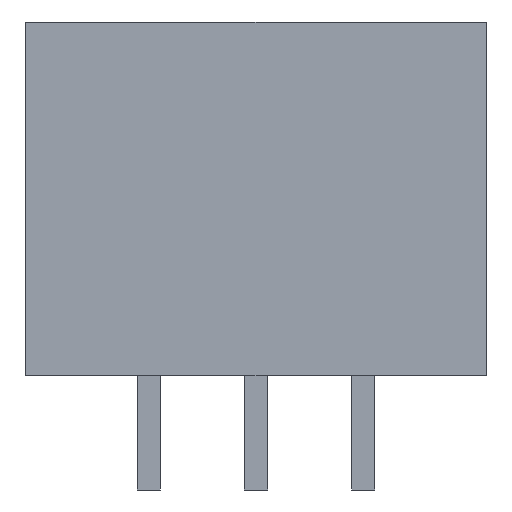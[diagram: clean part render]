
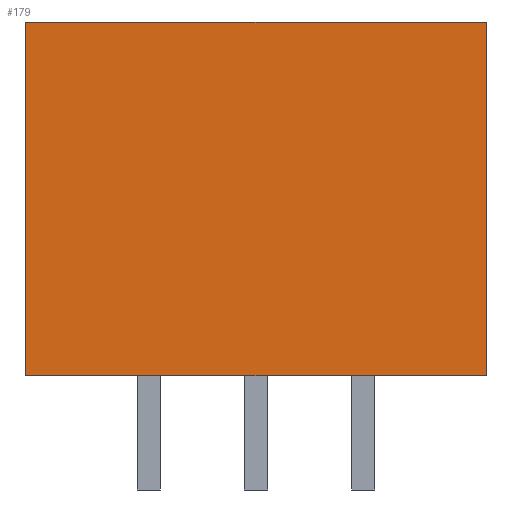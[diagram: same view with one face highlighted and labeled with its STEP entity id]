
A CAD part, front view. The second image highlights one B-rep face of the part: STEP entity #179.
In plain terms, the highlighted planar face has unit normal (0, -1, 0).
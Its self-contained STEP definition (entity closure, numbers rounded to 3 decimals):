
#63 = EDGE_CURVE('',#64,#66,#68,.T.);
#64 = VERTEX_POINT('',#65);
#65 = CARTESIAN_POINT('',(-3.45,-5.,0.));
#66 = VERTEX_POINT('',#67);
#67 = CARTESIAN_POINT('',(-3.45,-5.,9.9));
#68 = SURFACE_CURVE('',#69,(#73,#85),.PCURVE_S1.);
#69 = LINE('',#70,#71);
#70 = CARTESIAN_POINT('',(-3.45,-5.,0.));
#71 = VECTOR('',#72,1.);
#72 = DIRECTION('',(0.,0.,1.));
#73 = PCURVE('',#74,#79);
#74 = PLANE('',#75);
#75 = AXIS2_PLACEMENT_3D('',#76,#77,#78);
#76 = CARTESIAN_POINT('',(-3.45,-5.,0.));
#77 = DIRECTION('',(1.,0.,0.));
#78 = DIRECTION('',(0.,0.,1.));
#79 = DEFINITIONAL_REPRESENTATION('',(#80),#84);
#80 = LINE('',#81,#82);
#81 = CARTESIAN_POINT('',(0.,0.));
#82 = VECTOR('',#83,1.);
#83 = DIRECTION('',(1.,0.));
#84 = ( GEOMETRIC_REPRESENTATION_CONTEXT(2) 
PARAMETRIC_REPRESENTATION_CONTEXT() REPRESENTATION_CONTEXT('2D SPACE',''
  ) );
#85 = PCURVE('',#86,#91);
#86 = PLANE('',#87);
#87 = AXIS2_PLACEMENT_3D('',#88,#89,#90);
#88 = CARTESIAN_POINT('',(-3.45,-5.,0.));
#89 = DIRECTION('',(0.,1.,0.));
#90 = DIRECTION('',(0.,0.,1.));
#91 = DEFINITIONAL_REPRESENTATION('',(#92),#96);
#92 = LINE('',#93,#94);
#93 = CARTESIAN_POINT('',(0.,0.));
#94 = VECTOR('',#95,1.);
#95 = DIRECTION('',(1.,0.));
#96 = ( GEOMETRIC_REPRESENTATION_CONTEXT(2) 
PARAMETRIC_REPRESENTATION_CONTEXT() REPRESENTATION_CONTEXT('2D SPACE',''
  ) );
#114 = PLANE('',#115);
#115 = AXIS2_PLACEMENT_3D('',#116,#117,#118);
#116 = CARTESIAN_POINT('',(-3.45,-5.,0.));
#117 = DIRECTION('',(0.,0.,1.));
#118 = DIRECTION('',(1.,0.,0.));
#168 = PLANE('',#169);
#169 = AXIS2_PLACEMENT_3D('',#170,#171,#172);
#170 = CARTESIAN_POINT('',(-3.45,-5.,9.9));
#171 = DIRECTION('',(0.,0.,1.));
#172 = DIRECTION('',(1.,0.,0.));
#179 = ADVANCED_FACE('',(#180),#86,.F.);
#180 = FACE_BOUND('',#181,.F.);
#181 = EDGE_LOOP('',(#182,#205,#206,#229));
#182 = ORIENTED_EDGE('',*,*,#183,.F.);
#183 = EDGE_CURVE('',#64,#184,#186,.T.);
#184 = VERTEX_POINT('',#185);
#185 = CARTESIAN_POINT('',(9.45,-5.,0.));
#186 = SURFACE_CURVE('',#187,(#191,#198),.PCURVE_S1.);
#187 = LINE('',#188,#189);
#188 = CARTESIAN_POINT('',(-3.45,-5.,0.));
#189 = VECTOR('',#190,1.);
#190 = DIRECTION('',(1.,0.,0.));
#191 = PCURVE('',#86,#192);
#192 = DEFINITIONAL_REPRESENTATION('',(#193),#197);
#193 = LINE('',#194,#195);
#194 = CARTESIAN_POINT('',(0.,0.));
#195 = VECTOR('',#196,1.);
#196 = DIRECTION('',(0.,1.));
#197 = ( GEOMETRIC_REPRESENTATION_CONTEXT(2) 
PARAMETRIC_REPRESENTATION_CONTEXT() REPRESENTATION_CONTEXT('2D SPACE',''
  ) );
#198 = PCURVE('',#114,#199);
#199 = DEFINITIONAL_REPRESENTATION('',(#200),#204);
#200 = LINE('',#201,#202);
#201 = CARTESIAN_POINT('',(0.,0.));
#202 = VECTOR('',#203,1.);
#203 = DIRECTION('',(1.,0.));
#204 = ( GEOMETRIC_REPRESENTATION_CONTEXT(2) 
PARAMETRIC_REPRESENTATION_CONTEXT() REPRESENTATION_CONTEXT('2D SPACE',''
  ) );
#205 = ORIENTED_EDGE('',*,*,#63,.T.);
#206 = ORIENTED_EDGE('',*,*,#207,.T.);
#207 = EDGE_CURVE('',#66,#208,#210,.T.);
#208 = VERTEX_POINT('',#209);
#209 = CARTESIAN_POINT('',(9.45,-5.,9.9));
#210 = SURFACE_CURVE('',#211,(#215,#222),.PCURVE_S1.);
#211 = LINE('',#212,#213);
#212 = CARTESIAN_POINT('',(-3.45,-5.,9.9));
#213 = VECTOR('',#214,1.);
#214 = DIRECTION('',(1.,0.,0.));
#215 = PCURVE('',#86,#216);
#216 = DEFINITIONAL_REPRESENTATION('',(#217),#221);
#217 = LINE('',#218,#219);
#218 = CARTESIAN_POINT('',(9.9,0.));
#219 = VECTOR('',#220,1.);
#220 = DIRECTION('',(0.,1.));
#221 = ( GEOMETRIC_REPRESENTATION_CONTEXT(2) 
PARAMETRIC_REPRESENTATION_CONTEXT() REPRESENTATION_CONTEXT('2D SPACE',''
  ) );
#222 = PCURVE('',#168,#223);
#223 = DEFINITIONAL_REPRESENTATION('',(#224),#228);
#224 = LINE('',#225,#226);
#225 = CARTESIAN_POINT('',(0.,0.));
#226 = VECTOR('',#227,1.);
#227 = DIRECTION('',(1.,0.));
#228 = ( GEOMETRIC_REPRESENTATION_CONTEXT(2) 
PARAMETRIC_REPRESENTATION_CONTEXT() REPRESENTATION_CONTEXT('2D SPACE',''
  ) );
#229 = ORIENTED_EDGE('',*,*,#230,.F.);
#230 = EDGE_CURVE('',#184,#208,#231,.T.);
#231 = SURFACE_CURVE('',#232,(#236,#243),.PCURVE_S1.);
#232 = LINE('',#233,#234);
#233 = CARTESIAN_POINT('',(9.45,-5.,0.));
#234 = VECTOR('',#235,1.);
#235 = DIRECTION('',(0.,0.,1.));
#236 = PCURVE('',#86,#237);
#237 = DEFINITIONAL_REPRESENTATION('',(#238),#242);
#238 = LINE('',#239,#240);
#239 = CARTESIAN_POINT('',(0.,12.9));
#240 = VECTOR('',#241,1.);
#241 = DIRECTION('',(1.,0.));
#242 = ( GEOMETRIC_REPRESENTATION_CONTEXT(2) 
PARAMETRIC_REPRESENTATION_CONTEXT() REPRESENTATION_CONTEXT('2D SPACE',''
  ) );
#243 = PCURVE('',#244,#249);
#244 = PLANE('',#245);
#245 = AXIS2_PLACEMENT_3D('',#246,#247,#248);
#246 = CARTESIAN_POINT('',(9.45,-5.,0.));
#247 = DIRECTION('',(1.,0.,0.));
#248 = DIRECTION('',(0.,0.,1.));
#249 = DEFINITIONAL_REPRESENTATION('',(#250),#254);
#250 = LINE('',#251,#252);
#251 = CARTESIAN_POINT('',(0.,0.));
#252 = VECTOR('',#253,1.);
#253 = DIRECTION('',(1.,0.));
#254 = ( GEOMETRIC_REPRESENTATION_CONTEXT(2) 
PARAMETRIC_REPRESENTATION_CONTEXT() REPRESENTATION_CONTEXT('2D SPACE',''
  ) );
